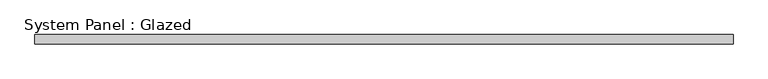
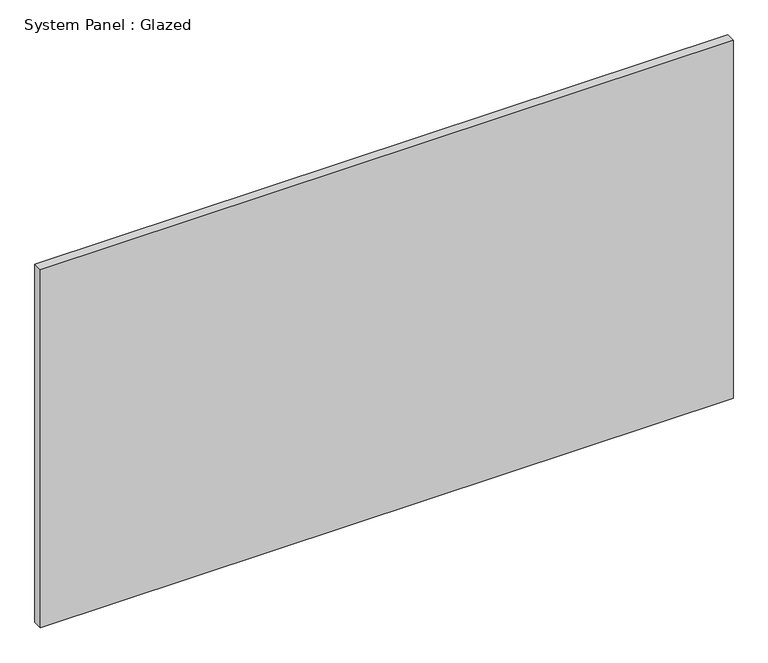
"""IFC4 building model written with IfcOpenShell, lengths in millimetres: plate geometry, System Panel : Glazed."""

from ifc_helpers import new_model, si_unit, origin, origin_with_axes, place, context, project, spatial, polyline, outline, extrude, source, transform, mapped, element, save


def system_panel_glazed_a0877fd3(model_context):
    return source(origin(), model_context, "Body", "SweptSolid", [
        extrude(outline(polyline([(915.0000002, 24.5), (-915.0000002, 24.5), (-915.0000002, 49.5), (915.0000002, 49.5), (915.0000002, 24.5)])), origin_with_axes(), (0.0, 0.0, 1.0), 1000.0),
    ])


if __name__ == "__main__":
    model = new_model("IFC4")
    model_context = context("Model", 3, world=origin())
    ifc_project = project(units=[si_unit("LENGTHUNIT", "METRE", prefix="MILLI")], contexts=[model_context])
    site = spatial("IfcSite", under=ifc_project)
    building = spatial("IfcBuilding", under=site)
    placement = place(None, origin())
    system_panel_glazed_shape = system_panel_glazed_a0877fd3(model_context)
    element("IfcPlate", 1, ObjectType="System Panel : Glazed", at=placement, inside=building, context=model_context, shape_type="MappedRepresentation", body=[
        mapped(system_panel_glazed_shape, transform((0.0, 0.0, 0.0), x_axis=(1.0, 0.0, 0.0), y_axis=(0.0, 1.0, 0.0), z_axis=(0.0, 0.0, 1.0))),
    ])
    save(model, "model.ifc")
